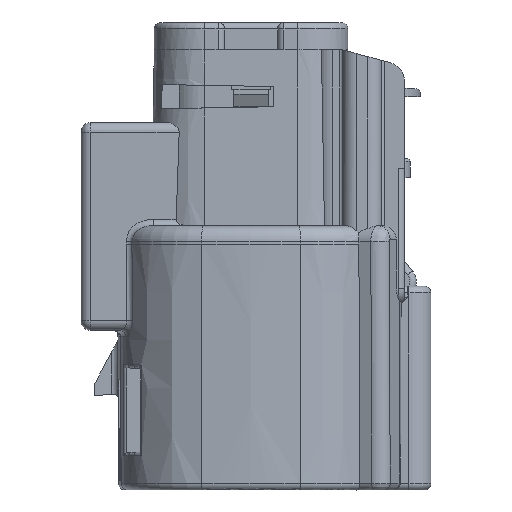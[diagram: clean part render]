
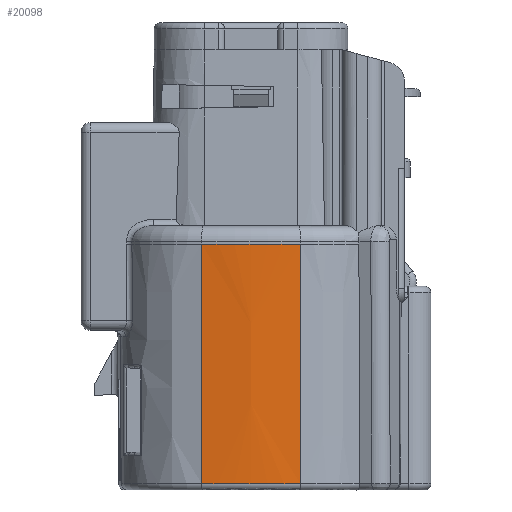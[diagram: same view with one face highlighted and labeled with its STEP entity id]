
A CAD part, left-side view. The second image highlights one B-rep face of the part: STEP entity #20098.
In plain terms, the highlighted conical face has half-angle 0.25 degrees and reference radius 33.292 mm.
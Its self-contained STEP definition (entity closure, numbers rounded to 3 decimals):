
#1298=DIRECTION('',(0.004,0.001,-1.));
#1299=VECTOR('',#1298,18.947);
#1300=CARTESIAN_POINT('',(-10.844,-3.911,
17.195));
#1301=LINE('',#1300,#1299);
#1385=DIRECTION('',(0.004,-0.001,-1.));
#1386=VECTOR('',#1385,18.947);
#1387=CARTESIAN_POINT('',(-10.844,3.911,17.195));
#1388=LINE('',#1387,#1386);
#1389=CARTESIAN_POINT('',(22.26,0.,17.195));
#1390=DIRECTION('',(0.,0.,-1.));
#1391=DIRECTION('',(-1.,0.,0.));
#1392=AXIS2_PLACEMENT_3D('',#1389,#1390,#1391);
#1394=CARTESIAN_POINT('',(22.26,0.,17.195));
#1395=DIRECTION('',(0.,0.,-1.));
#1396=DIRECTION('',(-0.993,-0.117,0.));
#1397=AXIS2_PLACEMENT_3D('',#1394,#1395,#1396);
#1404=CARTESIAN_POINT('',(22.26,0.,-1.752));
#1405=DIRECTION('',(0.,0.,-1.));
#1406=DIRECTION('',(-1.,0.,0.));
#1407=AXIS2_PLACEMENT_3D('',#1404,#1405,#1406);
#1409=CARTESIAN_POINT('',(22.26,0.,-1.752));
#1410=DIRECTION('',(0.,0.,-1.));
#1411=DIRECTION('',(-0.993,-0.117,0.));
#1412=AXIS2_PLACEMENT_3D('',#1409,#1410,#1411);
#15668=CARTESIAN_POINT('',(-10.844,3.911,
17.195));
#15669=CARTESIAN_POINT('',(-10.762,3.901,
-1.752));
#15670=VERTEX_POINT('',#15668);
#15671=VERTEX_POINT('',#15669);
#15672=CARTESIAN_POINT('',(-11.074,0.,17.195));
#15673=VERTEX_POINT('',#15672);
#15674=CARTESIAN_POINT('',(-10.844,-3.911,17.195));
#15675=VERTEX_POINT('',#15674);
#15676=CARTESIAN_POINT('',(-10.762,-3.901,
-1.752));
#15677=VERTEX_POINT('',#15676);
#15678=CARTESIAN_POINT('',(-10.991,0.,-1.752));
#15679=VERTEX_POINT('',#15678);
#20082=CARTESIAN_POINT('',(22.26,0.,7.721));
#20083=DIRECTION('',(0.,0.,1.));
#20084=DIRECTION('',(1.,0.,0.));
#20085=AXIS2_PLACEMENT_3D('',#20082,#20083,#20084);
#20086=CONICAL_SURFACE('',#20085,33.292,0.25);
#20088=ORIENTED_EDGE('',*,*,#20087,.T.);
#20090=ORIENTED_EDGE('',*,*,#20089,.F.);
#20091=ORIENTED_EDGE('',*,*,#20070,.F.);
#20092=ORIENTED_EDGE('',*,*,#20077,.F.);
#20093=ORIENTED_EDGE('',*,*,#19971,.T.);
#20095=ORIENTED_EDGE('',*,*,#20094,.T.);
#20096=EDGE_LOOP('',(#20088,#20090,#20091,#20092,#20093,#20095));
#20097=FACE_OUTER_BOUND('',#20096,.F.);
#20098=ADVANCED_FACE('',(#20097),#20086,.T.);
#1393=CIRCLE('',#1392,33.333);
#1398=CIRCLE('',#1397,33.333);
#1408=CIRCLE('',#1407,33.251);
#1413=CIRCLE('',#1412,33.251);
#19971=EDGE_CURVE('',#15675,#15677,#1301,.T.);
#20070=EDGE_CURVE('',#15673,#15670,#1393,.T.);
#20077=EDGE_CURVE('',#15675,#15673,#1398,.T.);
#20087=EDGE_CURVE('',#15679,#15671,#1408,.T.);
#20089=EDGE_CURVE('',#15670,#15671,#1388,.T.);
#20094=EDGE_CURVE('',#15677,#15679,#1413,.T.);
